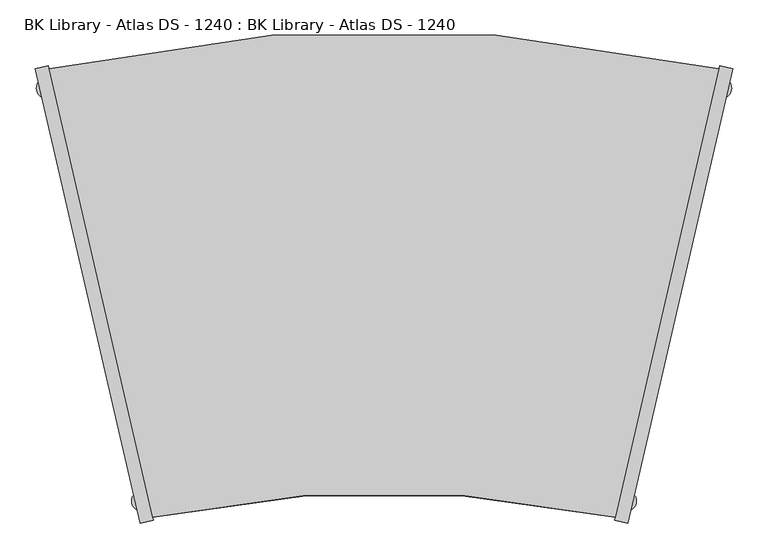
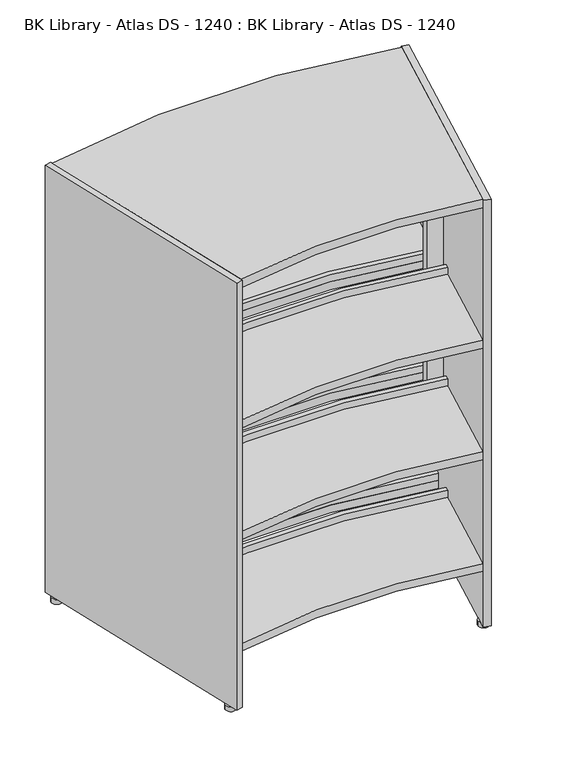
"""IFC4 building model written with IfcOpenShell, lengths in millimetres: furniture geometry, BK Library - Atlas DS - 1240 : BK Library - Atlas DS - 1240."""

from ifc_helpers import new_model, si_unit, point, frame, frame_2d, origin, origin_with_axes, place, context, project, spatial, polyline, circle_curve, trimmed, segment, composite_curve, outline, extrude, source, transform, mapped, element, save
from ifc_brep_helpers import plane_surface, cylinder_surface, revolved_surface, advanced_brep


def bk_library_atlas_ds_1240_bk_library_atlas_ds_1240_41a0ee64(model_context):
    return source(origin(), model_context, "Body", "SolidModel", [
        extrude(outline(composite_curve([segment(trimmed(circle_curve(frame_2d((0.0, -1777.8812307)), 2148.52767), [point((-474.1962162, 317.663829))], [point((474.1962162, 317.663829))], False, "CARTESIAN"), True, "CONTINUOUS"), segment(polyline([(474.1962162, 317.663829), (327.6944521, -317.663829)]), True, "CONTINUOUS"), segment(trimmed(circle_curve(frame_2d((0.0, -1840.4430404)), 1557.6392973), [point((327.6944521, -317.663829))], [point((-327.6944521, -317.663829))], True, "CARTESIAN"), True, "CONTINUOUS"), segment(polyline([(-327.6944521, -317.663829), (-474.1962162, 317.663829)]), True, "CONTINUOUS")], self_intersect=False)), frame((0.0, 0.0, 1213.6999998), z_axis=(0.0, 0.0, 1.0), x_axis=(1.0, 0.0, 0.0)), (0.0, 0.0, 1.0), 24.0),
        advanced_brep(
        [(-403.1922937, 9.7442892, 1106.1999998), (-398.6983746, -9.7442892, 1106.1999998), (398.6983746, -9.7442892, 1106.1999998), (403.1922937, 9.7442892, 1106.1999998), (-403.1922937, 9.7442892, 391.1999998), (403.1922937, 9.7442892, 391.1999998), (398.6983746, -9.7442892, 391.1999998), (-398.6983746, -9.7442892, 391.1999998), (359.7000463, -1.6061954, 1066.1999998), (359.7000463, -1.6061954, 768.6999998), (-359.7212176, -1.6103769, 768.6999998), (-359.7212176, -1.6103769, 1066.1999998), (-359.7212176, -1.6103769, 728.6999998), (359.7000463, -1.6061954, 728.6999998), (359.7000463, -1.6061954, 431.1999998), (-359.7212176, -1.6103769, 431.1999998), (359.7000463, 18.8192746, 768.6999998), (359.7000463, 18.8192746, 1066.1999998), (-359.7212176, 18.8151191, 1066.1999998), (-359.7212176, 18.8151191, 768.6999998), (359.7000463, 18.8192746, 728.6999998), (-359.7212176, 18.8151191, 728.6999998), (-359.7212176, 18.8151191, 431.1999998), (359.7000463, 18.8192746, 431.1999998)],
        [
            (0, 1),
            (1, 2, circle_curve(frame((0.0, -1822.824997, 1106.1999998), z_axis=(0.0, 0.0, -1.0), x_axis=(1.0, 0.0, 0.0)), 1856.4002927)),
            (2, 3),
            (3, 0, circle_curve(frame((0.0, -1813.8149651, 1106.1999998), z_axis=(0.0, 0.0, 1.0), x_axis=(1.0, 0.0, 0.0)), 1867.6007014)),
            (4, 5, circle_curve(frame((0.0, -1813.8149651, 391.1999998), z_axis=(0.0, 0.0, -1.0), x_axis=(1.0, 0.0, 0.0)), 1867.6007014)),
            (5, 6),
            (6, 7, circle_curve(frame((0.0, -1822.824997, 391.1999998), z_axis=(0.0, 0.0, 1.0), x_axis=(1.0, 0.0, 0.0)), 1856.4002927)),
            (7, 4),
            (0, 4),
            (7, 1),
            (2, 6),
            (5, 3),
            (8, 9),
            (9, 10, circle_curve(frame((0.0, -1822.824997, 768.6999998), z_axis=(0.0, 0.0, 1.0), x_axis=(1.0, 0.0, 0.0)), 1856.4002927)),
            (10, 11),
            (11, 8, circle_curve(frame((0.0, -1822.824997, 1066.1999998), z_axis=(0.0, 0.0, -1.0), x_axis=(1.0, 0.0, 0.0)), 1856.4002927)),
            (12, 13, circle_curve(frame((0.0, -1822.824997, 728.6999998), z_axis=(0.0, 0.0, -1.0), x_axis=(1.0, 0.0, 0.0)), 1856.4002927)),
            (13, 14),
            (14, 15, circle_curve(frame((0.0, -1822.824997, 431.1999998), z_axis=(0.0, 0.0, 1.0), x_axis=(1.0, 0.0, 0.0)), 1856.4002927)),
            (15, 12),
            (16, 17),
            (17, 18, circle_curve(frame((0.0, -1813.8149651, 1066.1999998), z_axis=(0.0, 0.0, 1.0), x_axis=(1.0, 0.0, 0.0)), 1867.6007014)),
            (18, 19),
            (19, 16, circle_curve(frame((0.0, -1813.8149651, 768.6999998), z_axis=(0.0, 0.0, -1.0), x_axis=(1.0, 0.0, 0.0)), 1867.6007014)),
            (20, 21, circle_curve(frame((0.0, -1813.8149651, 728.6999998), z_axis=(0.0, 0.0, 1.0), x_axis=(1.0, 0.0, 0.0)), 1867.6007014)),
            (21, 22),
            (22, 23, circle_curve(frame((0.0, -1813.8149651, 431.1999998), z_axis=(0.0, 0.0, -1.0), x_axis=(1.0, 0.0, 0.0)), 1867.6007014)),
            (23, 20),
            (16, 9),
            (8, 17),
            (11, 18),
            (10, 19),
            (20, 13),
            (12, 21),
            (15, 22),
            (14, 23),
        ],
        [
            plane_surface(frame((-326.7956683, -321.5615447, 1106.1999998), z_axis=(0.0, 0.0, 1.0), x_axis=(0.224695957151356, -0.9744289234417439, 0.0))),
            plane_surface(frame((-326.7956683, -321.5615447, 391.1999998), z_axis=(0.0, 0.0, -1.0), x_axis=(-0.224695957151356, 0.9744289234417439, 0.0))),
            plane_surface(frame((-403.1922937, 9.7442892, 1106.1999998), z_axis=(-0.9744289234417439, -0.224695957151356, 0.0), x_axis=(0.0, 0.0, -1.0))),
            plane_surface(frame((398.6983746, -9.7442892, 1106.1999998), z_axis=(0.974428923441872, -0.22469595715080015, 0.0), x_axis=(0.0, 0.0, -1.0))),
            revolved_surface(polyline([(1856.4002927, -1822.824997, 391.1999998), (1856.4002927, -1822.824997, 1106.1999998)]), (0.0, -1822.824997, 391.1999998), (0.0, 0.0, -1.0)),
            cylinder_surface(frame((0.0, -1813.8149651, 391.1999998), z_axis=(0.0, 0.0, 1.0), x_axis=(1.0, 0.0, 0.0)), 1867.6007014),
            plane_surface(frame((359.7000463, -114.4923923, 768.6999998), z_axis=(-1.0, 0.0, 0.0), x_axis=(0.0, 1.0, 0.0))),
            plane_surface(frame((359.7000463, -114.4923923, 1066.1999998), z_axis=(0.0, 0.0, -1.0), x_axis=(0.0, 1.0, 0.0))),
            plane_surface(frame((-359.7212176, -114.4923923, 1066.1999998), z_axis=(1.0, 0.0, 0.0), x_axis=(0.0, 1.0, 0.0))),
            plane_surface(frame((-359.7212176, -114.4923923, 768.6999998), z_axis=(0.0, 0.0, 1.0), x_axis=(0.0, 1.0, 0.0))),
            plane_surface(frame((359.7000463, -114.4923923, 728.6999998), z_axis=(0.0, 0.0, -1.0), x_axis=(0.0, 1.0, 0.0))),
            plane_surface(frame((-359.7212176, -114.4923923, 728.6999998), z_axis=(1.0, 0.0, 0.0), x_axis=(0.0, 1.0, 0.0))),
            plane_surface(frame((-359.7212176, -114.4923923, 431.1999998), z_axis=(0.0, 0.0, 1.0), x_axis=(0.0, 1.0, 0.0))),
            plane_surface(frame((359.7000463, -114.4923923, 431.1999998), z_axis=(-1.0, 0.0, 0.0), x_axis=(0.0, 1.0, 0.0))),
        ],
        [
            (0, [[1, 2, 3, 4]]),
            (1, [[5, 6, 7, 8]]),
            (2, [[-1, 9, -8, 10]]),
            (3, [[-3, 11, -6, 12]]),
            (4, [[-2, -10, -7, -11], [13, 14, 15, 16], [17, 18, 19, 20]]),
            (5, [[-4, -12, -5, -9], [21, 22, 23, 24], [25, 26, 27, 28]]),
            (6, [[29, -13, 30, -21]]),
            (7, [[-30, -16, 31, -22]]),
            (8, [[-31, -15, 32, -23]]),
            (9, [[-29, -24, -32, -14]]),
            (10, [[33, -17, 34, -25]]),
            (11, [[-34, -20, 35, -26]]),
            (12, [[-35, -19, 36, -27]]),
            (13, [[-33, -28, -36, -18]]),
        ],
    ),
        extrude(outline(composite_curve([segment(trimmed(circle_curve(frame_2d((0.0, -1840.4430404)), 1557.6392973), [point((327.6944521, -317.663829))], [point((-327.6944521, -317.663829))], True, "CARTESIAN"), True, "CONTINUOUS"), segment(polyline([(-327.6944521, -317.663829), (-394.2058088, -29.2269986)]), True, "CONTINUOUS"), segment(trimmed(circle_curve(frame_2d((0.0, -1785.1487517)), 1799.627579), [point((-394.2058088, -29.2269986))], [point((394.2058088, -29.2269986))], False, "CARTESIAN"), True, "CONTINUOUS"), segment(polyline([(394.2058088, -29.2269986), (327.6944521, -317.663829)]), True, "CONTINUOUS")], self_intersect=False)), frame((0.0, 0.0, 171.6999998), z_axis=(0.0, 0.0, 1.0), x_axis=(1.0, 0.0, 0.0)), (0.0, 0.0, 1.0), 22.0),
        extrude(outline(composite_curve([segment(trimmed(circle_curve(frame_2d((0.0, -1777.8812307)), 2148.52767), [point((-474.1962162, 317.663829))], [point((474.1962162, 317.663829))], False, "CARTESIAN"), True, "CONTINUOUS"), segment(polyline([(474.1962162, 317.663829), (407.6853202, 29.2289965)]), True, "CONTINUOUS"), segment(trimmed(circle_curve(frame_2d((0.0, -1798.2835703)), 1872.4341116), [point((407.6853202, 29.2289965))], [point((-407.6853202, 29.2289965))], True, "CARTESIAN"), True, "CONTINUOUS"), segment(polyline([(-407.6853202, 29.2289965), (-474.1962162, 317.663829)]), True, "CONTINUOUS")], self_intersect=False)), frame((0.0, 0.0, 171.6999998), z_axis=(0.0, 0.0, 1.0), x_axis=(1.0, 0.0, 0.0)), (0.0, 0.0, 1.0), 22.0),
        extrude(outline(composite_curve([segment(trimmed(circle_curve(frame_2d((0.0, -1840.4430404)), 1557.6392973), [point((327.6944521, -317.663829))], [point((-327.6944521, -317.663829))], True, "CARTESIAN"), True, "CONTINUOUS"), segment(polyline([(-327.6944521, -317.663829), (-394.2058088, -29.2269986)]), True, "CONTINUOUS"), segment(trimmed(circle_curve(frame_2d((0.0, -1785.1487517)), 1799.627579), [point((-394.2058088, -29.2269986))], [point((394.2058088, -29.2269986))], False, "CARTESIAN"), True, "CONTINUOUS"), segment(polyline([(394.2058088, -29.2269986), (327.6944521, -317.663829)]), True, "CONTINUOUS")], self_intersect=False)), frame((0.0, 0.0, 491.6999998), z_axis=(0.0, 0.0, 1.0), x_axis=(1.0, 0.0, 0.0)), (0.0, 0.0, 1.0), 22.0),
        extrude(outline(composite_curve([segment(trimmed(circle_curve(frame_2d((0.0, -1777.8812307)), 2148.52767), [point((-474.1962162, 317.663829))], [point((474.1962162, 317.663829))], False, "CARTESIAN"), True, "CONTINUOUS"), segment(polyline([(474.1962162, 317.663829), (407.6853202, 29.2289965)]), True, "CONTINUOUS"), segment(trimmed(circle_curve(frame_2d((0.0, -1798.2835703)), 1872.4341116), [point((407.6853202, 29.2289965))], [point((-407.6853202, 29.2289965))], True, "CARTESIAN"), True, "CONTINUOUS"), segment(polyline([(-407.6853202, 29.2289965), (-474.1962162, 317.663829)]), True, "CONTINUOUS")], self_intersect=False)), frame((0.0, 0.0, 491.6999998), z_axis=(0.0, 0.0, 1.0), x_axis=(1.0, 0.0, 0.0)), (0.0, 0.0, 1.0), 22.0),
        extrude(outline(composite_curve([segment(trimmed(circle_curve(frame_2d((0.0, -1840.4430404)), 1557.6392973), [point((327.6944521, -317.663829))], [point((-327.6944521, -317.663829))], True, "CARTESIAN"), True, "CONTINUOUS"), segment(polyline([(-327.6944521, -317.663829), (-394.2058088, -29.2269986)]), True, "CONTINUOUS"), segment(trimmed(circle_curve(frame_2d((0.0, -1785.1487517)), 1799.627579), [point((-394.2058088, -29.2269986))], [point((394.2058088, -29.2269986))], False, "CARTESIAN"), True, "CONTINUOUS"), segment(polyline([(394.2058088, -29.2269986), (327.6944521, -317.663829)]), True, "CONTINUOUS")], self_intersect=False)), frame((0.0, 0.0, 811.6999998), z_axis=(0.0, 0.0, 1.0), x_axis=(1.0, 0.0, 0.0)), (0.0, 0.0, 1.0), 22.0),
        extrude(outline(composite_curve([segment(trimmed(circle_curve(frame_2d((0.0, -1777.8812307)), 2148.52767), [point((-474.1962162, 317.663829))], [point((474.1962162, 317.663829))], False, "CARTESIAN"), True, "CONTINUOUS"), segment(polyline([(474.1962162, 317.663829), (407.6853202, 29.2289965)]), True, "CONTINUOUS"), segment(trimmed(circle_curve(frame_2d((0.0, -1798.2835703)), 1872.4341116), [point((407.6853202, 29.2289965))], [point((-407.6853202, 29.2289965))], True, "CARTESIAN"), True, "CONTINUOUS"), segment(polyline([(-407.6853202, 29.2289965), (-474.1962162, 317.663829)]), True, "CONTINUOUS")], self_intersect=False)), frame((0.0, 0.0, 811.6999998), z_axis=(0.0, 0.0, 1.0), x_axis=(1.0, 0.0, 0.0)), (0.0, 0.0, 1.0), 22.0),
        extrude(outline(composite_curve([segment(trimmed(circle_curve(frame_2d((0.0, -1785.1487517)), 1799.627579), [point((-394.2058088, -29.2269986))], [point((394.2058088, -29.2269986))], False, "CARTESIAN"), True, "CONTINUOUS"), segment(polyline([(394.2058088, -29.2269986), (391.2848087, -41.8943694)]), True, "CONTINUOUS"), segment(trimmed(circle_curve(frame_2d((0.0, -1790.5831955)), 1791.9309172), [point((391.2848087, -41.8943694))], [point((-391.2848087, -41.8943694))], True, "CARTESIAN"), True, "CONTINUOUS"), segment(polyline([(-391.2848087, -41.8943694), (-394.2058088, -29.2269986)]), True, "CONTINUOUS")], self_intersect=False)), frame((0.0, 0.0, 193.6999998), z_axis=(0.0, 0.0, 1.0), x_axis=(1.0, 0.0, 0.0)), (0.0, 0.0, 1.0), 20.0),
        extrude(outline(composite_curve([segment(trimmed(circle_curve(frame_2d((0.0, -1776.6858327)), 1864.3585062), [point((-410.605951, 41.8947656))], [point((410.605951, 41.8947656))], False, "CARTESIAN"), True, "CONTINUOUS"), segment(polyline([(410.605951, 41.8947656), (407.6853202, 29.2289965)]), True, "CONTINUOUS"), segment(trimmed(circle_curve(frame_2d((0.0, -1798.2835703)), 1872.4341116), [point((407.6853202, 29.2289965))], [point((-407.6853202, 29.2289965))], True, "CARTESIAN"), True, "CONTINUOUS"), segment(polyline([(-407.6853202, 29.2289965), (-410.605951, 41.8947656)]), True, "CONTINUOUS")], self_intersect=False)), frame((0.0, 0.0, 193.6999998), z_axis=(0.0, 0.0, 1.0), x_axis=(1.0, 0.0, 0.0)), (0.0, 0.0, 1.0), 20.0),
        extrude(outline(composite_curve([segment(trimmed(circle_curve(frame_2d((0.0, -1785.1487517)), 1799.627579), [point((-394.2058088, -29.2269986))], [point((394.2058088, -29.2269986))], False, "CARTESIAN"), True, "CONTINUOUS"), segment(polyline([(394.2058088, -29.2269986), (391.2848087, -41.8943694)]), True, "CONTINUOUS"), segment(trimmed(circle_curve(frame_2d((0.0, -1790.5831955)), 1791.9309172), [point((391.2848087, -41.8943694))], [point((-391.2848087, -41.8943694))], True, "CARTESIAN"), True, "CONTINUOUS"), segment(polyline([(-391.2848087, -41.8943694), (-394.2058088, -29.2269986)]), True, "CONTINUOUS")], self_intersect=False)), frame((0.0, 0.0, 513.6999998), z_axis=(0.0, 0.0, 1.0), x_axis=(1.0, 0.0, 0.0)), (0.0, 0.0, 1.0), 20.0),
        extrude(outline(composite_curve([segment(trimmed(circle_curve(frame_2d((0.0, -1776.6858327)), 1864.3585062), [point((-410.605951, 41.8947656))], [point((410.605951, 41.8947656))], False, "CARTESIAN"), True, "CONTINUOUS"), segment(polyline([(410.605951, 41.8947656), (407.6853202, 29.2289965)]), True, "CONTINUOUS"), segment(trimmed(circle_curve(frame_2d((0.0, -1798.2835703)), 1872.4341116), [point((407.6853202, 29.2289965))], [point((-407.6853202, 29.2289965))], True, "CARTESIAN"), True, "CONTINUOUS"), segment(polyline([(-407.6853202, 29.2289965), (-410.605951, 41.8947656)]), True, "CONTINUOUS")], self_intersect=False)), frame((0.0, 0.0, 513.6999998), z_axis=(0.0, 0.0, 1.0), x_axis=(1.0, 0.0, 0.0)), (0.0, 0.0, 1.0), 20.0),
        extrude(outline(composite_curve([segment(trimmed(circle_curve(frame_2d((0.0, -1785.1487517)), 1799.627579), [point((-394.2058088, -29.2269986))], [point((394.2058088, -29.2269986))], False, "CARTESIAN"), True, "CONTINUOUS"), segment(polyline([(394.2058088, -29.2269986), (391.2848087, -41.8943694)]), True, "CONTINUOUS"), segment(trimmed(circle_curve(frame_2d((0.0, -1790.5831955)), 1791.9309172), [point((391.2848087, -41.8943694))], [point((-391.2848087, -41.8943694))], True, "CARTESIAN"), True, "CONTINUOUS"), segment(polyline([(-391.2848087, -41.8943694), (-394.2058088, -29.2269986)]), True, "CONTINUOUS")], self_intersect=False)), frame((0.0, 0.0, 833.6999998), z_axis=(0.0, 0.0, 1.0), x_axis=(1.0, 0.0, 0.0)), (0.0, 0.0, 1.0), 20.0),
        extrude(outline(composite_curve([segment(trimmed(circle_curve(frame_2d((0.0, -1776.6858327)), 1864.3585062), [point((-410.605951, 41.8947656))], [point((410.605951, 41.8947656))], False, "CARTESIAN"), True, "CONTINUOUS"), segment(polyline([(410.605951, 41.8947656), (407.6853202, 29.2289965)]), True, "CONTINUOUS"), segment(trimmed(circle_curve(frame_2d((0.0, -1798.2835703)), 1872.4341116), [point((407.6853202, 29.2289965))], [point((-407.6853202, 29.2289965))], True, "CARTESIAN"), True, "CONTINUOUS"), segment(polyline([(-407.6853202, 29.2289965), (-410.605951, 41.8947656)]), True, "CONTINUOUS")], self_intersect=False)), frame((0.0, 0.0, 833.6999998), z_axis=(0.0, 0.0, 1.0), x_axis=(1.0, 0.0, 0.0)), (0.0, 0.0, 1.0), 20.0),
        extrude(outline(polyline([(-345.3098178, -325.8307679), (-493.6091495, 317.2923215), (-475.095, 321.5615447), (-326.7956683, -321.5615447), (-345.3098178, -325.8307679)])), frame((0.0, 0.0, 13.6999998), z_axis=(0.0, 0.0, 1.0), x_axis=(1.0, 0.0, 0.0)), (0.0, 0.0, 1.0), 1224.0),
        extrude(outline(polyline([(475.095, 321.5615447), (493.6091495, 317.2923215), (345.3098178, -325.8307679), (326.7956683, -321.5615447), (475.095, 321.5615447)])), frame((0.0, 0.0, 13.6999998), z_axis=(0.0, 0.0, 1.0), x_axis=(1.0, 0.0, 0.0)), (0.0, 0.0, 1.0), 1224.0),
        extrude(outline(composite_curve([segment(trimmed(circle_curve(frame_2d((477.608406, 290.1883722)), 14.4994573), [point((492.1078633, 290.1883722))], [point((463.1089486, 290.1883722))], False, "CARTESIAN"), True, "CONTINUOUS"), segment(trimmed(circle_curve(frame_2d((477.608406, 290.1883722)), 14.4994573), [point((463.1089486, 290.1883722))], [point((492.1078633, 290.1883722))], False, "CARTESIAN"), True, "CONTINUOUS")], self_intersect=False)), origin_with_axes(), (0.0, 0.0, 1.0), 13.6999998),
        extrude(outline(composite_curve([segment(trimmed(circle_curve(frame_2d((-477.608406, 290.1883722)), 14.4994573), [point((-492.1078633, 290.1883722))], [point((-463.1089486, 290.1883722))], False, "CARTESIAN"), True, "CONTINUOUS"), segment(trimmed(circle_curve(frame_2d((-477.608406, 290.1883722)), 14.4994573), [point((-463.1089486, 290.1883722))], [point((-492.1078633, 290.1883722))], False, "CARTESIAN"), True, "CONTINUOUS")], self_intersect=False)), origin_with_axes(), (0.0, 0.0, 1.0), 13.6999998),
        extrude(outline(composite_curve([segment(trimmed(circle_curve(frame_2d((342.7923392, -294.4590973)), 14.4994573), [point((357.2917965, -294.4590973))], [point((328.2928818, -294.4590973))], False, "CARTESIAN"), True, "CONTINUOUS"), segment(trimmed(circle_curve(frame_2d((342.7923392, -294.4590973)), 14.4994573), [point((328.2928818, -294.4590973))], [point((357.2917965, -294.4590973))], False, "CARTESIAN"), True, "CONTINUOUS")], self_intersect=False)), origin_with_axes(), (0.0, 0.0, 1.0), 13.6999998),
        extrude(outline(composite_curve([segment(trimmed(circle_curve(frame_2d((-342.7923392, -294.4590973)), 14.4994573), [point((-357.2917965, -294.4590973))], [point((-328.2928818, -294.4590973))], False, "CARTESIAN"), True, "CONTINUOUS"), segment(trimmed(circle_curve(frame_2d((-342.7923392, -294.4590973)), 14.4994573), [point((-328.2928818, -294.4590973))], [point((-357.2917965, -294.4590973))], False, "CARTESIAN"), True, "CONTINUOUS")], self_intersect=False)), origin_with_axes(), (0.0, 0.0, 1.0), 13.6999998),
    ])


if __name__ == "__main__":
    model = new_model("IFC4")
    model_context = context("Model", 3, world=origin())
    ifc_project = project(units=[si_unit("LENGTHUNIT", "METRE", prefix="MILLI")], contexts=[model_context])
    site = spatial("IfcSite", under=ifc_project)
    building = spatial("IfcBuilding", under=site)
    placement = place(None, origin())
    bk_library_atlas_ds_1240_bk_library_atlas_ds_1240_shape = bk_library_atlas_ds_1240_bk_library_atlas_ds_1240_41a0ee64(model_context)
    element("IfcFurniture", 1, ObjectType="BK Library - Atlas DS - 1240 : BK Library - Atlas DS - 1240", at=placement, inside=building, context=model_context, shape_type="MappedRepresentation", body=[
        mapped(bk_library_atlas_ds_1240_bk_library_atlas_ds_1240_shape, transform((0.0, 0.0, 0.0), x_axis=(1.0, 0.0, 0.0), y_axis=(0.0, 1.0, 0.0), z_axis=(0.0, 0.0, 1.0))),
    ])
    save(model, "model.ifc")
